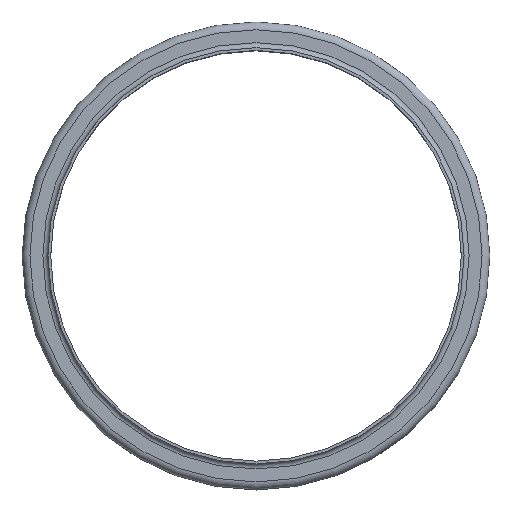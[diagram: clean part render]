
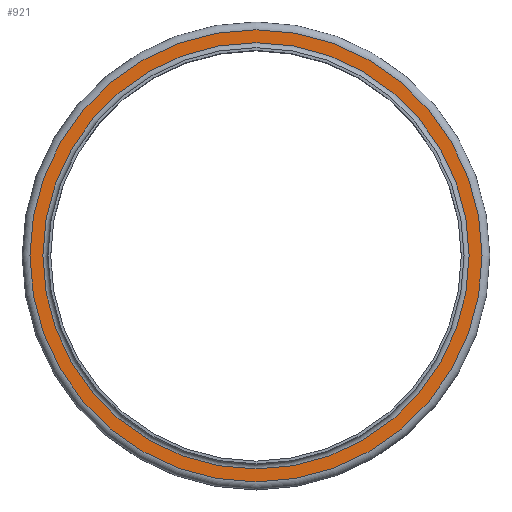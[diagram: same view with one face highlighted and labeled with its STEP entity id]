
A CAD part, top view. The second image highlights one B-rep face of the part: STEP entity #921.
In plain terms, the highlighted planar face has unit normal (0, 0, 1).
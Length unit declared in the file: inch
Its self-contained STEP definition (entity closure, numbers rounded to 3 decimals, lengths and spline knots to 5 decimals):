
#98=FACE_BOUND('',#272,.T.);
#165=FACE_OUTER_BOUND('',#271,.T.);
#271=EDGE_LOOP('',(#772));
#272=EDGE_LOOP('',(#773));
#385=CIRCLE('',#1110,9.34125);
#386=CIRCLE('',#1112,9.90875);
#466=VERTEX_POINT('',#1734);
#467=VERTEX_POINT('',#1738);
#571=EDGE_CURVE('',#466,#466,#385,.T.);
#572=EDGE_CURVE('',#467,#467,#386,.T.);
#772=ORIENTED_EDGE('',*,*,#572,.F.);
#773=ORIENTED_EDGE('',*,*,#571,.T.);
#854=PLANE('',#1111);
#921=ADVANCED_FACE('',(#165,#98),#854,.T.);
#1110=AXIS2_PLACEMENT_3D('',#1736,#1446,#1447);
#1111=AXIS2_PLACEMENT_3D('',#1737,#1448,#1449);
#1112=AXIS2_PLACEMENT_3D('',#1739,#1450,#1451);
#1446=DIRECTION('center_axis',(0.,0.,-1.));
#1447=DIRECTION('ref_axis',(1.,0.,0.));
#1448=DIRECTION('center_axis',(0.,0.,1.));
#1449=DIRECTION('ref_axis',(1.,0.,0.));
#1450=DIRECTION('center_axis',(0.,0.,-1.));
#1451=DIRECTION('ref_axis',(1.,0.,0.));
#1734=CARTESIAN_POINT('',(9.34125,0.,-0.22125));
#1736=CARTESIAN_POINT('Origin',(0.,0.,-0.22125));
#1737=CARTESIAN_POINT('Origin',(0.,9.90875,-0.22125));
#1738=CARTESIAN_POINT('',(9.90875,0.,-0.22125));
#1739=CARTESIAN_POINT('Origin',(0.,0.,-0.22125));
